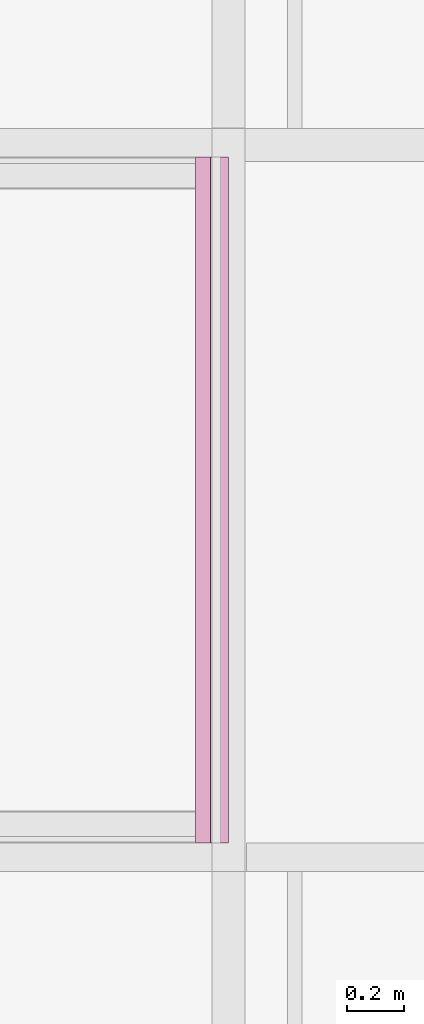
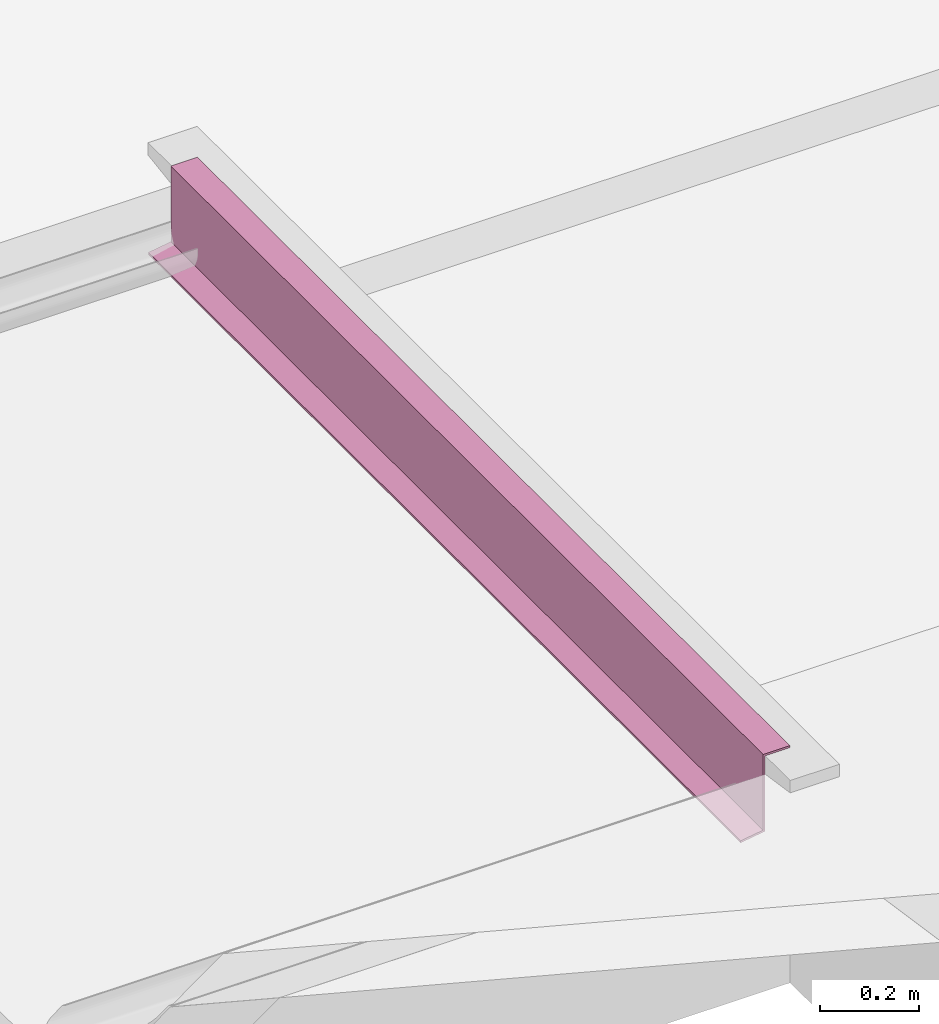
# One storey, part 9 of 9: 1 furniture element.
"""IFC4 building model written with IfcOpenShell, lengths in metres."""

from ifc_helpers import new_model, entity, si_unit, converted_unit, derived_unit, direction, frame, origin, place, context, subcontext, project, spatial, indexed_curve, outline, extrude, source, transform, mapped, material, type_object, type_shapes, element, save


model = new_model("IFC4")

# Units and contexts
model_context = context("Model", 3, precision=1e-05, world=origin(), true_north=direction((6.123031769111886e-17, 1.0)))
body_context = subcontext(model_context, "Body", "Model", "MODEL_VIEW")
ifc_project = project(units=[si_unit("LENGTHUNIT", "METRE"), si_unit("AREAUNIT", "SQUARE_METRE"), si_unit("VOLUMEUNIT", "CUBIC_METRE"), converted_unit("PLANEANGLEUNIT", "DEGREE", entity("IfcRatioMeasure", 0.017453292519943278), si_unit("PLANEANGLEUNIT", "RADIAN"), dimensions=[0, 0, 0, 0, 0, 0, 0]), si_unit("MASSUNIT", "GRAM", prefix="KILO"), derived_unit("MASSDENSITYUNIT", [(si_unit("MASSUNIT", "GRAM", prefix="KILO"), 1), (si_unit("LENGTHUNIT", "METRE"), -3)]), derived_unit("IONCONCENTRATIONUNIT", [(si_unit("MASSUNIT", "GRAM", prefix="KILO"), 1), (si_unit("LENGTHUNIT", "METRE"), -3)]), derived_unit("MOMENTOFINERTIAUNIT", [(si_unit("LENGTHUNIT", "METRE"), 4)]), si_unit("TIMEUNIT", "SECOND"), si_unit("FREQUENCYUNIT", "HERTZ"), si_unit("THERMODYNAMICTEMPERATUREUNIT", "DEGREE_CELSIUS"), derived_unit("THERMALTRANSMITTANCEUNIT", [(si_unit("MASSUNIT", "GRAM", prefix="KILO"), 1), (si_unit("THERMODYNAMICTEMPERATUREUNIT", "KELVIN"), -1), (si_unit("TIMEUNIT", "SECOND"), -3)]), derived_unit("THERMALCONDUCTANCEUNIT", [(si_unit("MASSUNIT", "GRAM", prefix="KILO"), 1), (si_unit("THERMODYNAMICTEMPERATUREUNIT", "KELVIN"), -1), (si_unit("TIMEUNIT", "SECOND"), -3), (si_unit("LENGTHUNIT", "METRE"), 1)]), derived_unit("VOLUMETRICFLOWRATEUNIT", [(si_unit("LENGTHUNIT", "METRE"), 3), (si_unit("TIMEUNIT", "SECOND"), -1)]), derived_unit("MASSFLOWRATEUNIT", [(si_unit("MASSUNIT", "GRAM", prefix="KILO"), 1), (si_unit("TIMEUNIT", "SECOND"), -1)]), derived_unit("ROTATIONALFREQUENCYUNIT", [(si_unit("TIMEUNIT", "SECOND"), -1)]), si_unit("ELECTRICCURRENTUNIT", "AMPERE"), si_unit("ELECTRICVOLTAGEUNIT", "VOLT"), si_unit("POWERUNIT", "WATT"), si_unit("FORCEUNIT", "NEWTON", prefix="KILO"), si_unit("ILLUMINANCEUNIT", "LUX"), si_unit("LUMINOUSFLUXUNIT", "LUMEN"), si_unit("LUMINOUSINTENSITYUNIT", "CANDELA"), derived_unit("USERDEFINED", [(si_unit("MASSUNIT", "GRAM", prefix="KILO"), -1), (si_unit("LENGTHUNIT", "METRE"), -2), (si_unit("TIMEUNIT", "SECOND"), 3), (si_unit("LUMINOUSFLUXUNIT", "LUMEN"), 1)]), derived_unit("USERDEFINED", [(si_unit("MASSUNIT", "GRAM", prefix="KILO"), 1), (si_unit("TIMEUNIT", "SECOND"), -3), (si_unit("LENGTHUNIT", "METRE"), 3), (si_unit("ELECTRICCURRENTUNIT", "AMPERE"), -2)]), derived_unit("SOUNDPOWERUNIT", [(si_unit("MASSUNIT", "GRAM", prefix="KILO"), 1), (si_unit("TIMEUNIT", "SECOND"), -3), (si_unit("LENGTHUNIT", "METRE"), 2)]), derived_unit("SOUNDPRESSUREUNIT", [(si_unit("MASSUNIT", "GRAM", prefix="KILO"), 1), (si_unit("LENGTHUNIT", "METRE"), -1), (si_unit("TIMEUNIT", "SECOND"), -2)]), derived_unit("LINEARVELOCITYUNIT", [(si_unit("LENGTHUNIT", "METRE"), 1), (si_unit("TIMEUNIT", "SECOND"), -1)]), si_unit("PRESSUREUNIT", "PASCAL"), derived_unit("USERDEFINED", [(si_unit("MASSUNIT", "GRAM", prefix="KILO"), 1), (si_unit("LENGTHUNIT", "METRE"), -2), (si_unit("TIMEUNIT", "SECOND"), -2)]), derived_unit("LINEARFORCEUNIT", [(si_unit("MASSUNIT", "GRAM", prefix="KILO"), 1), (si_unit("TIMEUNIT", "SECOND"), -2)]), derived_unit("PLANARFORCEUNIT", [(si_unit("MASSUNIT", "GRAM", prefix="KILO"), 1), (si_unit("LENGTHUNIT", "METRE"), -1), (si_unit("TIMEUNIT", "SECOND"), -2)]), derived_unit("SPECIFICHEATCAPACITYUNIT", [(si_unit("THERMODYNAMICTEMPERATUREUNIT", "KELVIN"), -1), (si_unit("LENGTHUNIT", "METRE"), 2), (si_unit("TIMEUNIT", "SECOND"), -2)]), derived_unit("HEATINGVALUEUNIT", [(si_unit("LENGTHUNIT", "METRE"), 2), (si_unit("TIMEUNIT", "SECOND"), -2)]), derived_unit("VAPORPERMEABILITYUNIT", [(si_unit("LENGTHUNIT", "METRE"), -1), (si_unit("TIMEUNIT", "SECOND"), 1)]), derived_unit("DYNAMICVISCOSITYUNIT", [(si_unit("MASSUNIT", "GRAM", prefix="KILO"), 1), (si_unit("TIMEUNIT", "SECOND"), -1), (si_unit("LENGTHUNIT", "METRE"), -1)]), derived_unit("THERMALEXPANSIONCOEFFICIENTUNIT", [(si_unit("THERMODYNAMICTEMPERATUREUNIT", "KELVIN"), -1)]), derived_unit("MODULUSOFELASTICITYUNIT", [(si_unit("MASSUNIT", "GRAM", prefix="KILO"), 1), (si_unit("LENGTHUNIT", "METRE"), -1), (si_unit("TIMEUNIT", "SECOND"), -2)]), derived_unit("ISOTHERMALMOISTURECAPACITYUNIT", [(si_unit("LENGTHUNIT", "METRE"), 3), (si_unit("MASSUNIT", "GRAM", prefix="KILO"), -1)]), derived_unit("MOISTUREDIFFUSIVITYUNIT", [(si_unit("TIMEUNIT", "SECOND"), -1), (si_unit("LENGTHUNIT", "METRE"), 2)])], contexts=[model_context])

# Site, building, storey
site_placement = place(None, origin())
site = spatial("IfcSite", under=ifc_project, at=site_placement, Name="Default", CompositionType="ELEMENT")
building_placement = place(site_placement, origin())
building = spatial("IfcBuilding", under=site, at=building_placement, CompositionType="ELEMENT")
storey_placement = place(building_placement, frame((0.0, 0.0, 14.10000000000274)))
storey = spatial("IfcBuildingStorey", under=building, at=storey_placement, Name="Nivel 7", CompositionType="ELEMENT", Elevation=14.10000000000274)

# Furniture
ifc_material = material(Name="flacnhe", Category="Materials")
furniture_type = type_object("IfcFurnitureType", Name="flanche:flanche", AssemblyPlace="NOTDEFINED", PredefinedType="NOTDEFINED", material=ifc_material)
shared_shape = source(origin(), body_context, "Body", "SweptSolid", [
    extrude(outline(indexed_curve([(-0.10214953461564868, -0.05625000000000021), (-0.09709359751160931, -0.05625000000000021), (-0.08921859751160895, -0.0037500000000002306), (0.09799656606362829, -0.0037500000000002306), (0.09799656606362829, 0.058749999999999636), (0.09299656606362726, 0.058749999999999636), (0.09299656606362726, 0.0012499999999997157), (-0.09352453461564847, 0.0012499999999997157), (-0.10214953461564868, -0.05625000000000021)], self_intersect=False)), frame((7.94625000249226, -7.625000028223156, 14.407003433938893), z_axis=(0.0, 1.0, 0.0), x_axis=(0.0, 0.0, 1.0)), (0.0, 0.0, 1.0), 2.3995000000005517),
])
type_shapes(furniture_type, [shared_shape])
furniture_placement = place(storey_placement, frame((0.0, 0.0, -14.10000000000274)))
element("IfcFurniture", 1, at=furniture_placement, inside=storey, type_object=furniture_type, material=ifc_material, Name="flanche:flanche", ObjectType="flanche:flanche", PredefinedType="NOTDEFINED", context=body_context, shape_type="MappedRepresentation", body=[
    mapped(shared_shape, transform((0.0, 0.0, 0.0), scale=1.0)),
])

save(model, "model.ifc")
